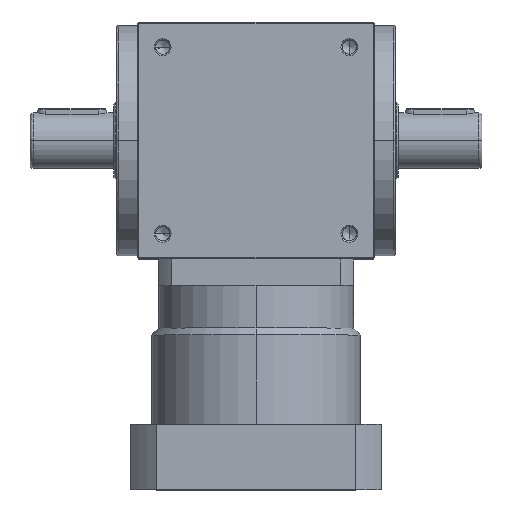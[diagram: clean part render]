
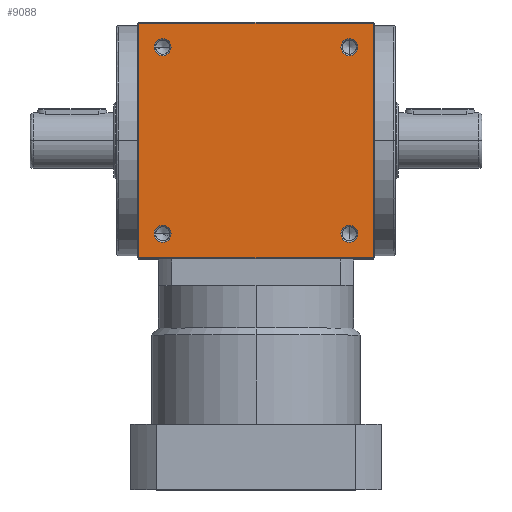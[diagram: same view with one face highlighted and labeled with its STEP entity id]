
A CAD part, top view. The second image highlights one B-rep face of the part: STEP entity #9088.
In plain terms, the highlighted planar face has unit normal (0, 0, 1).
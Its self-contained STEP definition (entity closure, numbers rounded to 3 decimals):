
#16 = DIRECTION ( 'NONE',  ( -1., 0., 0. ) ) ;
#51 = DIRECTION ( 'NONE',  ( 0., 0., -1. ) ) ;
#157 = CARTESIAN_POINT ( 'NONE',  ( 0., 0., 85. ) ) ;
#207 = AXIS2_PLACEMENT_3D ( 'NONE', #3833, #3351, #3339 ) ;
#237 = CARTESIAN_POINT ( 'NONE',  ( -60.9, -67., 85. ) ) ;
#287 = CARTESIAN_POINT ( 'NONE',  ( 84., 0., 85. ) ) ;
#296 = DIRECTION ( 'NONE',  ( 0., 1., 0. ) ) ;
#328 = VERTEX_POINT ( 'NONE', #7752 ) ;
#394 = PLANE ( 'NONE',  #5827 ) ;
#466 = ORIENTED_EDGE ( 'NONE', *, *, #5218, .T. ) ;
#947 = EDGE_CURVE ( 'NONE', #8738, #5828, #3412, .T. ) ;
#1219 = CARTESIAN_POINT ( 'NONE',  ( 60.9, 67., 85. ) ) ;
#1550 = AXIS2_PLACEMENT_3D ( 'NONE', #2826, #2795, #2781 ) ;
#1869 = CARTESIAN_POINT ( 'NONE',  ( -60.9, 67., 85. ) ) ;
#2294 = AXIS2_PLACEMENT_3D ( 'NONE', #3443, #7173, #7188 ) ;
#2359 = VERTEX_POINT ( 'NONE', #237 ) ;
#2367 = CIRCLE ( 'NONE', #11074, 6.1 ) ;
#2567 = LINE ( 'NONE', #10910, #12032 ) ;
#2781 = DIRECTION ( 'NONE',  ( 1., 0., 0. ) ) ;
#2795 = DIRECTION ( 'NONE',  ( 0., 0., 1. ) ) ;
#2826 = CARTESIAN_POINT ( 'NONE',  ( -67., 67., 85. ) ) ;
#2911 = DIRECTION ( 'NONE',  ( 1., 0., 0. ) ) ;
#2915 = CIRCLE ( 'NONE', #207, 6.1 ) ;
#2928 = DIRECTION ( 'NONE',  ( 0., 0., 1. ) ) ;
#3049 = VERTEX_POINT ( 'NONE', #8980 ) ;
#3339 = DIRECTION ( 'NONE',  ( 1., 0., 0. ) ) ;
#3351 = DIRECTION ( 'NONE',  ( 0., 0., 1. ) ) ;
#3412 = CIRCLE ( 'NONE', #4978, 6.1 ) ;
#3441 = CIRCLE ( 'NONE', #2294, 6.1 ) ;
#3443 = CARTESIAN_POINT ( 'NONE',  ( 67., 67., 85. ) ) ;
#3465 = CIRCLE ( 'NONE', #3788, 6.1 ) ;
#3573 = FACE_BOUND ( 'NONE', #5621, .T. ) ;
#3611 = CIRCLE ( 'NONE', #1550, 6.1 ) ;
#3663 = FACE_BOUND ( 'NONE', #8236, .T. ) ;
#3685 = FACE_OUTER_BOUND ( 'NONE', #7298, .T. ) ;
#3774 = FACE_BOUND ( 'NONE', #8035, .T. ) ;
#3788 = AXIS2_PLACEMENT_3D ( 'NONE', #6149, #2928, #2911 ) ;
#3828 = EDGE_CURVE ( 'NONE', #12475, #2359, #10371, .T. ) ;
#3833 = CARTESIAN_POINT ( 'NONE',  ( 67., -67., 85. ) ) ;
#3988 = VECTOR ( 'NONE', #10064, 1000. ) ;
#4123 = AXIS2_PLACEMENT_3D ( 'NONE', #12586, #12575, #5830 ) ;
#4419 = LINE ( 'NONE', #10025, #3988 ) ;
#4862 = ORIENTED_EDGE ( 'NONE', *, *, #9285, .T. ) ;
#4886 = VERTEX_POINT ( 'NONE', #10957 ) ;
#4978 = AXIS2_PLACEMENT_3D ( 'NONE', #6111, #6101, #6096 ) ;
#4990 = CARTESIAN_POINT ( 'NONE',  ( 60.9, -67., 85. ) ) ;
#5071 = CARTESIAN_POINT ( 'NONE',  ( 73.1, 67., 85. ) ) ;
#5218 = EDGE_CURVE ( 'NONE', #3049, #4886, #4419, .T. ) ;
#5473 = VECTOR ( 'NONE', #12760, 1000. ) ;
#5560 = VERTEX_POINT ( 'NONE', #7585 ) ;
#5621 = EDGE_LOOP ( 'NONE', ( #8496, #11517 ) ) ;
#5640 = ORIENTED_EDGE ( 'NONE', *, *, #6173, .F. ) ;
#5644 = CARTESIAN_POINT ( 'NONE',  ( -73.1, 67., 85. ) ) ;
#5827 = AXIS2_PLACEMENT_3D ( 'NONE', #157, #51, #16 ) ;
#5828 = VERTEX_POINT ( 'NONE', #5644 ) ;
#5830 = DIRECTION ( 'NONE',  ( 1., 0., 0. ) ) ;
#6054 = EDGE_CURVE ( 'NONE', #11942, #328, #2915, .T. ) ;
#6096 = DIRECTION ( 'NONE',  ( 1., 0., 0. ) ) ;
#6101 = DIRECTION ( 'NONE',  ( 0., 0., 1. ) ) ;
#6111 = CARTESIAN_POINT ( 'NONE',  ( -67., 67., 85. ) ) ;
#6149 = CARTESIAN_POINT ( 'NONE',  ( 67., 67., 85. ) ) ;
#6173 = EDGE_CURVE ( 'NONE', #11421, #11061, #3465, .T. ) ;
#6210 = EDGE_CURVE ( 'NONE', #5828, #8738, #3611, .T. ) ;
#6511 = VECTOR ( 'NONE', #296, 1000. ) ;
#6529 = LINE ( 'NONE', #287, #6511 ) ;
#6758 = ORIENTED_EDGE ( 'NONE', *, *, #8761, .T. ) ;
#6818 = ORIENTED_EDGE ( 'NONE', *, *, #9843, .F. ) ;
#6844 = AXIS2_PLACEMENT_3D ( 'NONE', #11215, #11197, #11146 ) ;
#6937 = DIRECTION ( 'NONE',  ( 1., 0., 0. ) ) ;
#6950 = DIRECTION ( 'NONE',  ( 0., 0., 1. ) ) ;
#6963 = CARTESIAN_POINT ( 'NONE',  ( 67., -67., 85. ) ) ;
#6969 = CIRCLE ( 'NONE', #6844, 6.1 ) ;
#7025 = EDGE_CURVE ( 'NONE', #2359, #12475, #6969, .T. ) ;
#7173 = DIRECTION ( 'NONE',  ( 0., 0., 1. ) ) ;
#7188 = DIRECTION ( 'NONE',  ( 1., 0., 0. ) ) ;
#7224 = ORIENTED_EDGE ( 'NONE', *, *, #10125, .T. ) ;
#7298 = EDGE_LOOP ( 'NONE', ( #466, #7224, #6758, #4862 ) ) ;
#7585 = CARTESIAN_POINT ( 'NONE',  ( -84., 84., 85. ) ) ;
#7752 = CARTESIAN_POINT ( 'NONE',  ( 73.1, -67., 85. ) ) ;
#8035 = EDGE_LOOP ( 'NONE', ( #10568, #11168 ) ) ;
#8201 = CARTESIAN_POINT ( 'NONE',  ( 84., 84., 85. ) ) ;
#8236 = EDGE_LOOP ( 'NONE', ( #12274, #10201 ) ) ;
#8496 = ORIENTED_EDGE ( 'NONE', *, *, #947, .F. ) ;
#8738 = VERTEX_POINT ( 'NONE', #1869 ) ;
#8761 = EDGE_CURVE ( 'NONE', #12245, #5560, #10751, .T. ) ;
#8880 = EDGE_CURVE ( 'NONE', #328, #11942, #2367, .T. ) ;
#8980 = CARTESIAN_POINT ( 'NONE',  ( -84., -84., 85. ) ) ;
#9088 = ADVANCED_FACE ( 'NONE', ( #3685, #3573, #9301, #3663, #3774 ), #394, .F. ) ;
#9285 = EDGE_CURVE ( 'NONE', #5560, #3049, #2567, .T. ) ;
#9301 = FACE_BOUND ( 'NONE', #10345, .T. ) ;
#9843 = EDGE_CURVE ( 'NONE', #11061, #11421, #3441, .T. ) ;
#10025 = CARTESIAN_POINT ( 'NONE',  ( 0., -84., 85. ) ) ;
#10064 = DIRECTION ( 'NONE',  ( 1., 0., 0. ) ) ;
#10125 = EDGE_CURVE ( 'NONE', #4886, #12245, #6529, .T. ) ;
#10201 = ORIENTED_EDGE ( 'NONE', *, *, #3828, .F. ) ;
#10345 = EDGE_LOOP ( 'NONE', ( #6818, #5640 ) ) ;
#10371 = CIRCLE ( 'NONE', #4123, 6.1 ) ;
#10498 = CARTESIAN_POINT ( 'NONE',  ( -73.1, -67., 85. ) ) ;
#10568 = ORIENTED_EDGE ( 'NONE', *, *, #8880, .F. ) ;
#10751 = LINE ( 'NONE', #12677, #5473 ) ;
#10910 = CARTESIAN_POINT ( 'NONE',  ( -84., 0., 85. ) ) ;
#10957 = CARTESIAN_POINT ( 'NONE',  ( 84., -84., 85. ) ) ;
#11007 = DIRECTION ( 'NONE',  ( 0., -1., 0. ) ) ;
#11061 = VERTEX_POINT ( 'NONE', #5071 ) ;
#11074 = AXIS2_PLACEMENT_3D ( 'NONE', #6963, #6950, #6937 ) ;
#11146 = DIRECTION ( 'NONE',  ( 1., 0., 0. ) ) ;
#11168 = ORIENTED_EDGE ( 'NONE', *, *, #6054, .F. ) ;
#11197 = DIRECTION ( 'NONE',  ( 0., 0., 1. ) ) ;
#11215 = CARTESIAN_POINT ( 'NONE',  ( -67., -67., 85. ) ) ;
#11421 = VERTEX_POINT ( 'NONE', #1219 ) ;
#11517 = ORIENTED_EDGE ( 'NONE', *, *, #6210, .F. ) ;
#11942 = VERTEX_POINT ( 'NONE', #4990 ) ;
#12032 = VECTOR ( 'NONE', #11007, 1000. ) ;
#12245 = VERTEX_POINT ( 'NONE', #8201 ) ;
#12274 = ORIENTED_EDGE ( 'NONE', *, *, #7025, .F. ) ;
#12475 = VERTEX_POINT ( 'NONE', #10498 ) ;
#12575 = DIRECTION ( 'NONE',  ( 0., 0., 1. ) ) ;
#12586 = CARTESIAN_POINT ( 'NONE',  ( -67., -67., 85. ) ) ;
#12677 = CARTESIAN_POINT ( 'NONE',  ( 0., 84., 85. ) ) ;
#12760 = DIRECTION ( 'NONE',  ( -1., 0., 0. ) ) ;
